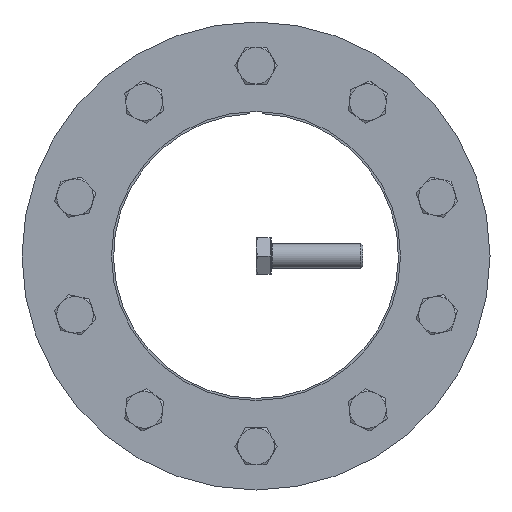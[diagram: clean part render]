
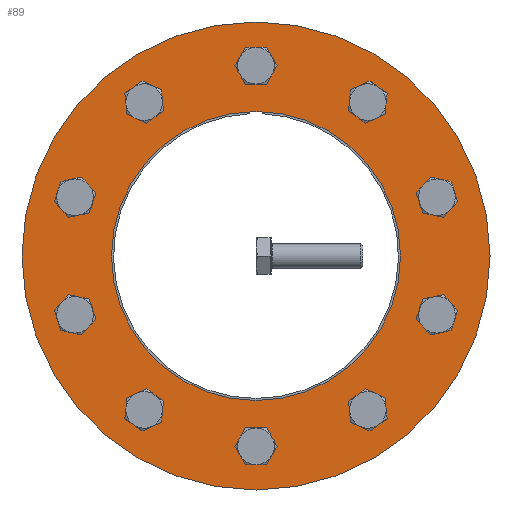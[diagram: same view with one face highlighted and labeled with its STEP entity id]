
A CAD part, front view. The second image highlights one B-rep face of the part: STEP entity #89.
In plain terms, the highlighted planar face has unit normal (0, -1, 0).
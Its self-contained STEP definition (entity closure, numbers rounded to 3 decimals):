
#89 = ADVANCED_FACE( '', ( #211, #212, #213, #214, #215, #216, #217, #218, #219, #220, #221, #222 ), #223, .F. );
#211 = FACE_BOUND( '', #444, .T. );
#212 = FACE_BOUND( '', #445, .T. );
#213 = FACE_BOUND( '', #446, .T. );
#214 = FACE_BOUND( '', #447, .T. );
#215 = FACE_BOUND( '', #448, .T. );
#216 = FACE_BOUND( '', #449, .T. );
#217 = FACE_OUTER_BOUND( '', #450, .T. );
#218 = FACE_BOUND( '', #451, .T. );
#219 = FACE_BOUND( '', #452, .T. );
#220 = FACE_BOUND( '', #453, .T. );
#221 = FACE_BOUND( '', #454, .T. );
#222 = FACE_BOUND( '', #455, .T. );
#223 = PLANE( '', #456 );
#444 = EDGE_LOOP( '', ( #716 ) );
#445 = EDGE_LOOP( '', ( #717 ) );
#446 = EDGE_LOOP( '', ( #718 ) );
#447 = EDGE_LOOP( '', ( #719 ) );
#448 = EDGE_LOOP( '', ( #720 ) );
#449 = EDGE_LOOP( '', ( #721 ) );
#450 = EDGE_LOOP( '', ( #722 ) );
#451 = EDGE_LOOP( '', ( #723 ) );
#452 = EDGE_LOOP( '', ( #724 ) );
#453 = EDGE_LOOP( '', ( #725 ) );
#454 = EDGE_LOOP( '', ( #726 ) );
#455 = EDGE_LOOP( '', ( #727 ) );
#456 = AXIS2_PLACEMENT_3D( '', #728, #729, #730 );
#716 = ORIENTED_EDGE( '', *, *, #1111, .T. );
#717 = ORIENTED_EDGE( '', *, *, #1112, .T. );
#718 = ORIENTED_EDGE( '', *, *, #1113, .T. );
#719 = ORIENTED_EDGE( '', *, *, #1114, .T. );
#720 = ORIENTED_EDGE( '', *, *, #1115, .T. );
#721 = ORIENTED_EDGE( '', *, *, #1116, .F. );
#722 = ORIENTED_EDGE( '', *, *, #1117, .T. );
#723 = ORIENTED_EDGE( '', *, *, #1118, .T. );
#724 = ORIENTED_EDGE( '', *, *, #1119, .T. );
#725 = ORIENTED_EDGE( '', *, *, #1120, .T. );
#726 = ORIENTED_EDGE( '', *, *, #1121, .T. );
#727 = ORIENTED_EDGE( '', *, *, #1122, .T. );
#728 = CARTESIAN_POINT( '', ( 0., -30.25, 115. ) );
#729 = DIRECTION( '', ( 0., 1., 0. ) );
#730 = DIRECTION( '', ( 0., 0., 1. ) );
#1111 = EDGE_CURVE( '', #1309, #1309, #1310, .T. );
#1112 = EDGE_CURVE( '', #1311, #1311, #1312, .T. );
#1113 = EDGE_CURVE( '', #1313, #1313, #1314, .T. );
#1114 = EDGE_CURVE( '', #1315, #1315, #1316, .T. );
#1115 = EDGE_CURVE( '', #1317, #1317, #1318, .T. );
#1116 = EDGE_CURVE( '', #1319, #1319, #1320, .T. );
#1117 = EDGE_CURVE( '', #1321, #1321, #1322, .T. );
#1118 = EDGE_CURVE( '', #1323, #1323, #1324, .T. );
#1119 = EDGE_CURVE( '', #1325, #1325, #1326, .T. );
#1120 = EDGE_CURVE( '', #1327, #1327, #1328, .T. );
#1121 = EDGE_CURVE( '', #1329, #1329, #1330, .T. );
#1122 = EDGE_CURVE( '', #1331, #1331, #1332, .T. );
#1309 = VERTEX_POINT( '', #1695 );
#1310 = CIRCLE( '', #1696, 6. );
#1311 = VERTEX_POINT( '', #1697 );
#1312 = CIRCLE( '', #1698, 6. );
#1313 = VERTEX_POINT( '', #1699 );
#1314 = CIRCLE( '', #1700, 6. );
#1315 = VERTEX_POINT( '', #1701 );
#1316 = CIRCLE( '', #1702, 6. );
#1317 = VERTEX_POINT( '', #1703 );
#1318 = CIRCLE( '', #1704, 6. );
#1319 = VERTEX_POINT( '', #1705 );
#1320 = CIRCLE( '', #1706, 71. );
#1321 = VERTEX_POINT( '', #1707 );
#1322 = CIRCLE( '', #1708, 115. );
#1323 = VERTEX_POINT( '', #1709 );
#1324 = CIRCLE( '', #1710, 6. );
#1325 = VERTEX_POINT( '', #1711 );
#1326 = CIRCLE( '', #1712, 6. );
#1327 = VERTEX_POINT( '', #1713 );
#1328 = CIRCLE( '', #1714, 6. );
#1329 = VERTEX_POINT( '', #1715 );
#1330 = CIRCLE( '', #1716, 6. );
#1331 = VERTEX_POINT( '', #1717 );
#1332 = CIRCLE( '', #1718, 6. );
#1695 = CARTESIAN_POINT( '', ( -87.07, -30.25, 34.599 ) );
#1696 = AXIS2_PLACEMENT_3D( '', #1951, #1952, #1953 );
#1697 = CARTESIAN_POINT( '', ( -59.812, -30.25, -72.116 ) );
#1698 = AXIS2_PLACEMENT_3D( '', #1954, #1955, #1956 );
#1699 = CARTESIAN_POINT( '', ( 50.104, -30.25, -79.17 ) );
#1700 = AXIS2_PLACEMENT_3D( '', #1957, #1958, #1959 );
#1701 = CARTESIAN_POINT( '', ( 90.778, -30.25, 23.187 ) );
#1702 = AXIS2_PLACEMENT_3D( '', #1960, #1961, #1962 );
#1703 = CARTESIAN_POINT( '', ( 6., -30.25, 93.5 ) );
#1704 = AXIS2_PLACEMENT_3D( '', #1963, #1964, #1965 );
#1705 = CARTESIAN_POINT( '', ( 0., -30.25, -71. ) );
#1706 = AXIS2_PLACEMENT_3D( '', #1966, #1967, #1968 );
#1707 = CARTESIAN_POINT( '', ( 0., -30.25, -115. ) );
#1708 = AXIS2_PLACEMENT_3D( '', #1969, #1970, #1971 );
#1709 = CARTESIAN_POINT( '', ( 59.812, -30.25, 72.116 ) );
#1710 = AXIS2_PLACEMENT_3D( '', #1972, #1973, #1974 );
#1711 = CARTESIAN_POINT( '', ( 87.07, -30.25, -34.599 ) );
#1712 = AXIS2_PLACEMENT_3D( '', #1975, #1976, #1977 );
#1713 = CARTESIAN_POINT( '', ( -6., -30.25, -93.5 ) );
#1714 = AXIS2_PLACEMENT_3D( '', #1978, #1979, #1980 );
#1715 = CARTESIAN_POINT( '', ( -90.778, -30.25, -23.187 ) );
#1716 = AXIS2_PLACEMENT_3D( '', #1981, #1982, #1983 );
#1717 = CARTESIAN_POINT( '', ( -50.104, -30.25, 79.17 ) );
#1718 = AXIS2_PLACEMENT_3D( '', #1984, #1985, #1986 );
#1951 = CARTESIAN_POINT( '', ( -88.924, -30.25, 28.893 ) );
#1952 = DIRECTION( '', ( 0., 1., 0. ) );
#1953 = DIRECTION( '', ( 0.309, 0., 0.951 ) );
#1954 = CARTESIAN_POINT( '', ( -54.958, -30.25, -75.643 ) );
#1955 = DIRECTION( '', ( 0., 1., 0. ) );
#1956 = DIRECTION( '', ( -0.809, 0., 0.588 ) );
#1957 = CARTESIAN_POINT( '', ( 54.958, -30.25, -75.643 ) );
#1958 = DIRECTION( '', ( 0., 1., 0. ) );
#1959 = DIRECTION( '', ( -0.809, 0., -0.588 ) );
#1960 = CARTESIAN_POINT( '', ( 88.924, -30.25, 28.893 ) );
#1961 = DIRECTION( '', ( 0., 1., 0. ) );
#1962 = DIRECTION( '', ( 0.309, 0., -0.951 ) );
#1963 = CARTESIAN_POINT( '', ( 0., -30.25, 93.5 ) );
#1964 = DIRECTION( '', ( 0., 1., 0. ) );
#1965 = DIRECTION( '', ( 1., 0., 0. ) );
#1966 = CARTESIAN_POINT( '', ( 0., -30.25, 0. ) );
#1967 = DIRECTION( '', ( 0., -1., 0. ) );
#1968 = DIRECTION( '', ( 0., 0., -1. ) );
#1969 = CARTESIAN_POINT( '', ( 0., -30.25, 0. ) );
#1970 = DIRECTION( '', ( 0., -1., 0. ) );
#1971 = DIRECTION( '', ( 0., 0., -1. ) );
#1972 = CARTESIAN_POINT( '', ( 54.958, -30.25, 75.643 ) );
#1973 = DIRECTION( '', ( 0., 1., 0. ) );
#1974 = DIRECTION( '', ( 0.809, 0., -0.588 ) );
#1975 = CARTESIAN_POINT( '', ( 88.924, -30.25, -28.893 ) );
#1976 = DIRECTION( '', ( 0., 1., 0. ) );
#1977 = DIRECTION( '', ( -0.309, 0., -0.951 ) );
#1978 = CARTESIAN_POINT( '', ( 0., -30.25, -93.5 ) );
#1979 = DIRECTION( '', ( 0., 1., 0. ) );
#1980 = DIRECTION( '', ( -1., 0., 0. ) );
#1981 = CARTESIAN_POINT( '', ( -88.924, -30.25, -28.893 ) );
#1982 = DIRECTION( '', ( 0., 1., 0. ) );
#1983 = DIRECTION( '', ( -0.309, 0., 0.951 ) );
#1984 = CARTESIAN_POINT( '', ( -54.958, -30.25, 75.643 ) );
#1985 = DIRECTION( '', ( 0., 1., 0. ) );
#1986 = DIRECTION( '', ( 0.809, 0., 0.588 ) );
